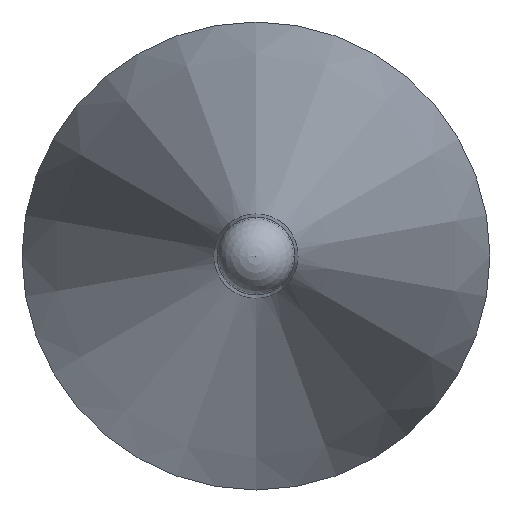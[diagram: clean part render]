
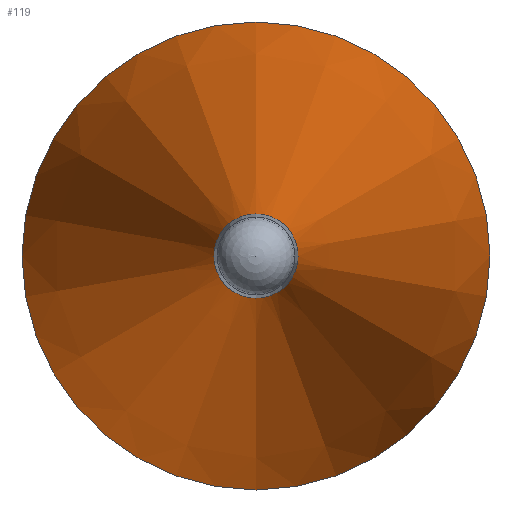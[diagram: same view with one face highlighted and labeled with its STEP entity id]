
A CAD part, left-side view. The second image highlights one B-rep face of the part: STEP entity #119.
In plain terms, the highlighted conical face has half-angle 12 degrees and reference radius 3 mm.
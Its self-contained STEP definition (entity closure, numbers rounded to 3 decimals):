
#97=CONICAL_SURFACE('',#194,3.,12.);
#106=FACE_BOUND('',#134,.T.);
#107=FACE_BOUND('',#135,.T.);
#119=ADVANCED_FACE('',(#106,#107),#97,.T.);
#134=EDGE_LOOP('',(#150));
#135=EDGE_LOOP('',(#151));
#150=ORIENTED_EDGE('',*,*,#172,.F.);
#151=ORIENTED_EDGE('',*,*,#173,.T.);
#164=VERTEX_POINT('',#249);
#165=VERTEX_POINT('',#252);
#172=EDGE_CURVE('',#164,#164,#180,.T.);
#173=EDGE_CURVE('',#165,#165,#181,.T.);
#180=CIRCLE('',#191,0.539);
#181=CIRCLE('',#193,3.);
#191=AXIS2_PLACEMENT_3D('',#248,#215,#216);
#193=AXIS2_PLACEMENT_3D('',#251,#219,#220);
#194=AXIS2_PLACEMENT_3D('',#253,#221,#222);
#215=DIRECTION('',(-1.,0.,0.));
#216=DIRECTION('',(0.,0.,1.));
#219=DIRECTION('',(-1.,0.,0.));
#220=DIRECTION('',(0.,0.,1.));
#221=DIRECTION('',(1.,0.,0.));
#222=DIRECTION('',(0.,0.,-1.));
#248=CARTESIAN_POINT('',(7903.912,6103.288,0.));
#249=CARTESIAN_POINT('',(7903.912,6103.288,0.539));
#251=CARTESIAN_POINT('',(7915.489,6103.288,0.));
#252=CARTESIAN_POINT('',(7915.489,6103.288,3.));
#253=CARTESIAN_POINT('',(7915.489,6103.288,0.));
